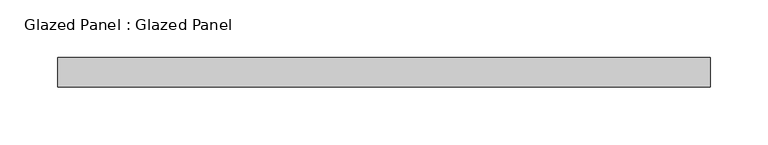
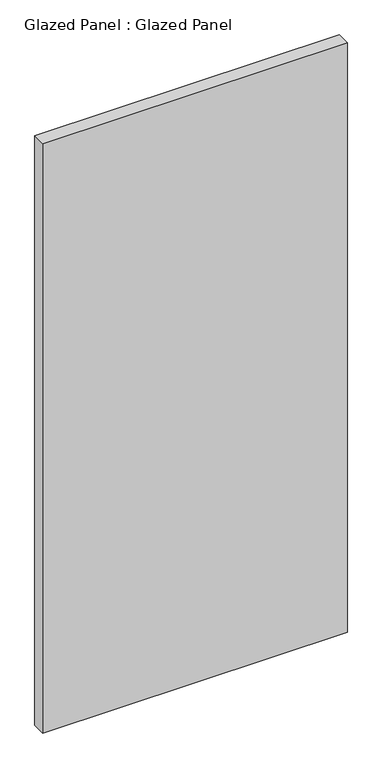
"""IFC4 building model written with IfcOpenShell, lengths in millimetres: plate geometry, Glazed Panel : Glazed Panel."""

import ifcopenshell
import ifcopenshell.guid

model = None  # the IFC model being written
_history = None  # IfcOwnerHistory: only IFC2X3 demands one
_inside = {}  # id of a spatial element -> (the spatial element, [elements in it])
_under = {}  # id of a project, library or spatial element -> (it, [spatial elements below it])
_declared = {}  # id of a project -> (the project, [libraries it declares])
_typed = {}  # id of a type object -> (the type object, [elements of that type])
_made_of = {}  # id of a material, layer set ... -> (it, [elements and type objects made of it])


def new_model(schema):
    """Start an empty IFC model of exactly this schema.

    Asked for "IFC4X3", IfcOpenShell would pick the latest addendum, in which some entities
    have other attributes; the version numbers below select the first issue.
    IFC2X3 requires an IfcOwnerHistory on every rooted entity: one is made here for all.
    """
    global model, _history
    if schema == "IFC4X3":
        model = ifcopenshell.file(schema_version=(4, 3, 0, 0))
    else:
        model = ifcopenshell.file(schema=schema)
    _inside.clear()
    _under.clear()
    _declared.clear()
    _typed.clear()
    _made_of.clear()
    _history = None
    if model.schema == "IFC2X3":
        org = make("IfcOrganization", Name="unknown")
        user = make(
            "IfcPersonAndOrganization",
            ThePerson=make("IfcPerson", FamilyName="unknown"),
            TheOrganization=org,
        )
        app = make(
            "IfcApplication",
            ApplicationDeveloper=org,
            Version="unknown",
            ApplicationFullName="unknown",
            ApplicationIdentifier="unknown",
        )
        _history = make(
            "IfcOwnerHistory",
            OwningUser=user,
            OwningApplication=app,
            ChangeAction="ADDED",
            CreationDate=0,
        )
    return model


def make(cls, **values):
    """One entity of the class cls with the attributes given. An attribute that is None is left unset."""
    return model.create_entity(
        cls, **{name: value for name, value in values.items() if value is not None}
    )


def rooted(cls, **values):
    """An entity with a GlobalId (a new one), such as an element, a storey or a relation."""
    return make(cls, GlobalId=ifcopenshell.guid.new(), OwnerHistory=_history, **values)


def si_unit(unit_type, name, prefix=None):
    """IfcSIUnit, for example si_unit("LENGTHUNIT", "METRE", prefix="MILLI")."""
    return make("IfcSIUnit", UnitType=unit_type, Prefix=prefix, Name=name)


def assignment(units):
    """IfcUnitAssignment: the units of a project."""
    return None if units is None else make("IfcUnitAssignment", Units=units)


def point(xyz):
    """IfcCartesianPoint."""
    return None if xyz is None else make("IfcCartesianPoint", Coordinates=xyz)


def direction(xyz):
    """IfcDirection."""
    return None if xyz is None else make("IfcDirection", DirectionRatios=xyz)


def frame(location, z_axis=None, x_axis=None):
    """IfcAxis2Placement3D, a coordinate frame: its origin and axes. An axis left out is left unset."""
    return make(
        "IfcAxis2Placement3D",
        Location=point(location),
        Axis=direction(z_axis),
        RefDirection=direction(x_axis),
    )


def origin():
    """The frame at (0, 0, 0) with its axes left unset."""
    return frame((0.0, 0.0, 0.0))


def origin_with_axes():
    """The frame at (0, 0, 0) with the z axis (0, 0, 1) and the x axis (1, 0, 0) written out."""
    return frame((0.0, 0.0, 0.0), z_axis=(0.0, 0.0, 1.0), x_axis=(1.0, 0.0, 0.0))


def place(relative_to, where):
    """IfcLocalPlacement: puts the frame where relative to a parent placement (None: the world)."""
    return make(
        "IfcLocalPlacement", PlacementRelTo=relative_to, RelativePlacement=where
    )


def context(
    kind, dimensions, precision=None, world=None, true_north=None, identifier=None
):
    """IfcGeometricRepresentationContext, for example the 3D "Model" context."""
    return make(
        "IfcGeometricRepresentationContext",
        ContextIdentifier=identifier,
        ContextType=kind,
        CoordinateSpaceDimension=dimensions,
        Precision=precision,
        WorldCoordinateSystem=world,
        TrueNorth=true_north,
    )


def project(units=None, contexts=None):
    """IfcProject with its units and contexts."""
    return rooted(
        "IfcProject",
        Name="project",
        RepresentationContexts=contexts,
        UnitsInContext=assignment(units),
    )


def spatial(cls, under=None, at=None, **own):
    """A site, building, storey or space (cls), placed at a placement, below another one or the project."""
    s = rooted(cls, ObjectPlacement=at, **own)
    if under is not None:
        _under.setdefault(under.id(), (under, []))[1].append(s)
    return s


def polyline(points):
    """IfcPolyline through the points."""
    return make("IfcPolyline", Points=[point(p) for p in points])


def outline(outer, holes=None, kind="AREA"):
    """IfcArbitraryClosedProfileDef: a profile drawn as a closed curve; with holes, ...WithVoids."""
    if holes is None:
        return make("IfcArbitraryClosedProfileDef", ProfileType=kind, OuterCurve=outer)
    return make(
        "IfcArbitraryProfileDefWithVoids",
        ProfileType=kind,
        OuterCurve=outer,
        InnerCurves=holes,
    )


def extrude(swept, where, along, depth):
    """IfcExtrudedAreaSolid: the profile swept, set in the frame where, extruded along a direction by depth."""
    return make(
        "IfcExtrudedAreaSolid",
        SweptArea=swept,
        Position=where,
        ExtrudedDirection=direction(along),
        Depth=depth,
    )


def shape(context_of_items, identifier, shape_type, items):
    """IfcShapeRepresentation: the items that make up one representation, for example the "Body"."""
    return make(
        "IfcShapeRepresentation",
        ContextOfItems=context_of_items,
        RepresentationIdentifier=identifier,
        RepresentationType=shape_type,
        Items=items,
    )


def source(mapping_origin, context_of_items, identifier, shape_type, items):
    """IfcRepresentationMap: a shape defined once, which mapped items show again and again."""
    return make(
        "IfcRepresentationMap",
        MappingOrigin=mapping_origin,
        MappedRepresentation=shape(context_of_items, identifier, shape_type, items),
    )


def transform(
    local_origin,
    x_axis=None,
    y_axis=None,
    z_axis=None,
    scale=None,
    scale2=None,
    scale3=None,
    uniform=True,
):
    """IfcCartesianTransformationOperator3D, or its non-uniform kind. x_axis, y_axis, z_axis: its Axis1, 2, 3."""
    if uniform:
        return make(
            "IfcCartesianTransformationOperator3D",
            Axis1=direction(x_axis),
            Axis2=direction(y_axis),
            LocalOrigin=point(local_origin),
            Scale=scale,
            Axis3=direction(z_axis),
        )
    return make(
        "IfcCartesianTransformationOperator3DnonUniform",
        Axis1=direction(x_axis),
        Axis2=direction(y_axis),
        LocalOrigin=point(local_origin),
        Scale=scale,
        Axis3=direction(z_axis),
        Scale2=scale2,
        Scale3=scale3,
    )


def mapped(mapping_source, mapping_target):
    """IfcMappedItem: shows the shape of a source again, moved by a transform."""
    return make(
        "IfcMappedItem", MappingSource=mapping_source, MappingTarget=mapping_target
    )


def made_of(thing, what):
    """Note that an element or type object is made of a material, layer set ...; save() writes the relation."""
    if what is not None:
        _made_of.setdefault(what.id(), (what, []))[1].append(thing)
    return thing


def element(
    cls,
    number,
    at=None,
    inside=None,
    cuts=None,
    type_object=None,
    material=None,
    context=None,
    identifier="Body",
    shape_type=None,
    held_by="IfcProductDefinitionShape",
    body=None,
    shapes=None,
    **own,
):
    """One element of the class cls, such as IfcWall. Its Tag is "e" and its number.

    at: its placement. inside: the storey or other place that contains it. cuts: it is an
    opening in that element (IfcRelVoidsElement). A single representation is given by context,
    identifier, shape_type and body (its items); several are given by shapes. held_by: the class
    of the entity that holds the representations. save() writes the other relations.
    """
    e = rooted(cls, Tag="e%d" % number, ObjectPlacement=at, **own)
    if body is not None:
        shapes = [shape(context, identifier, shape_type, body)]
    if shapes is not None:
        e.Representation = make(held_by, Representations=shapes)
    if inside is not None:
        _inside.setdefault(inside.id(), (inside, []))[1].append(e)
    if cuts is not None:
        rooted(
            "IfcRelVoidsElement", RelatingBuildingElement=cuts, RelatedOpeningElement=e
        )
    if type_object is not None:
        _typed.setdefault(type_object.id(), (type_object, []))[1].append(e)
    return made_of(e, material)


def aggregate(whole, parts):
    """IfcRelAggregates: a whole, such as a stair, and the parts it consists of."""
    return rooted("IfcRelAggregates", RelatingObject=whole, RelatedObjects=parts)


def save(model, path):
    """Write the relations noted so far, then the file.

    IfcRelAggregates (storeys below a building ...), IfcRelContainedInSpatialStructure (elements
    in a storey), IfcRelDefinesByType, IfcRelAssociatesMaterial and IfcRelDeclares: one each for
    every whole, place, type object, material and project.
    """
    for whole, parts in _under.values():
        aggregate(whole, parts)
    for where, things in _inside.values():
        rooted(
            "IfcRelContainedInSpatialStructure",
            RelatedElements=things,
            RelatingStructure=where,
        )
    for kind, things in _typed.values():
        rooted("IfcRelDefinesByType", RelatedObjects=things, RelatingType=kind)
    for what, things in _made_of.values():
        rooted("IfcRelAssociatesMaterial", RelatedObjects=things, RelatingMaterial=what)
    for by, libraries in _declared.values():
        rooted("IfcRelDeclares", RelatingContext=by, RelatedDefinitions=libraries)
    model.write(path)


def glazed_panel_glazed_panel_ec4ddaf9(model_context):
    return source(origin(), model_context, "Body", "SweptSolid", [
        extrude(outline(polyline([(282.575, 38.1), (-282.575, 38.1), (-282.575, 63.5), (282.575, 63.5), (282.575, 38.1)])), origin_with_axes(), (0.0, 0.0, 1.0), 1155.7),
    ])


if __name__ == "__main__":
    model = new_model("IFC4")
    model_context = context("Model", 3, world=origin())
    ifc_project = project(units=[si_unit("LENGTHUNIT", "METRE", prefix="MILLI")], contexts=[model_context])
    site = spatial("IfcSite", under=ifc_project)
    building = spatial("IfcBuilding", under=site)
    placement = place(None, origin())
    glazed_panel_glazed_panel_shape = glazed_panel_glazed_panel_ec4ddaf9(model_context)
    element("IfcPlate", 1, ObjectType="Glazed Panel : Glazed Panel", at=placement, inside=building, context=model_context, shape_type="MappedRepresentation", body=[
        mapped(glazed_panel_glazed_panel_shape, transform((0.0, 0.0, 0.0), x_axis=(1.0, 0.0, 0.0), y_axis=(0.0, 1.0, 0.0), z_axis=(0.0, 0.0, 1.0))),
    ])
    save(model, "model.ifc")
